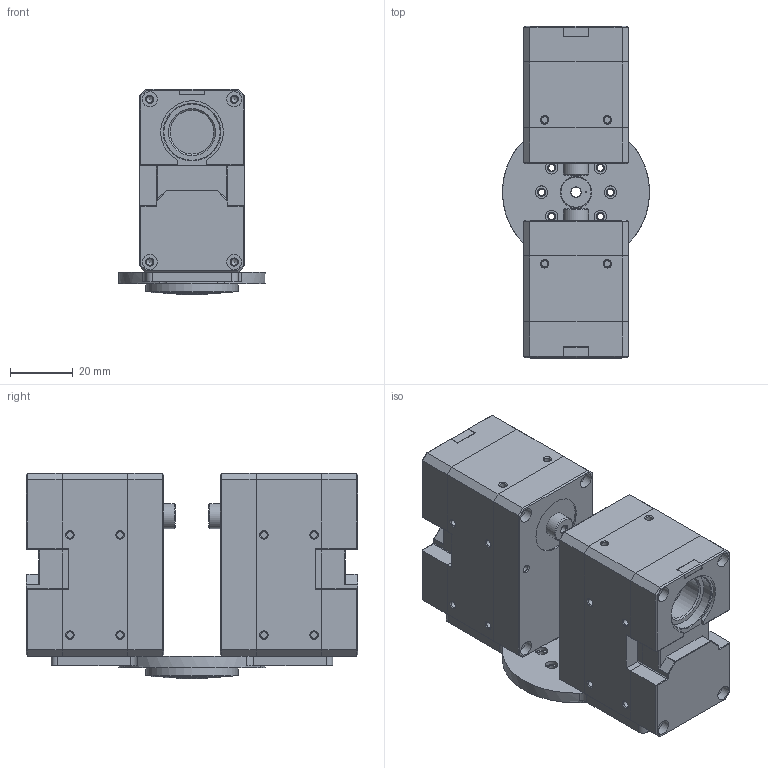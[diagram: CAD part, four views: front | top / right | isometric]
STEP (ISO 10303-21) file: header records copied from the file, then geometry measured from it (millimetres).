
FILE_DESCRIPTION(/* description */ (''),/* implementation_level */ '2;1');
FILE_NAME(/* name */ 'C:\Users\robos\OneDrive\ドキュメント\Inventor\OpenMANIPULATOR\OpenMANIPULATOR-MAX\urdf変換\om-max_link2.stp',/* time_stamp */ '2020-11-05T01:34:35+09:00',/* author */ ('Y.Shibata'),/* organization */ (''),/* preprocessor_version */ 'ST-DEVELOPER v15.2',/* originating_system */ 'Autodesk Inventor 2014',/* authorisation */ '');
FILE_SCHEMA (('AUTOMOTIVE_DESIGN { 1 0 10303 214 3 1 1 }'));
Length unit declared in the file: millimetre
Products named in the file (4): om-max-id12-1_yaw_plate; XM540-W270; HN13_N101; om-max_link2
Assembly tree (4 placements, depth 2):
  om-max_link2
    om-max-id12-1_yaw_plate
    XM540-W270  x2
    HN13_N101
Bounding box: 47 x 106 x 65.75 mm (x, y, z)
Volume: 171518.8 mm3; surface area: 52225.8 mm2
Topology: 10 solids, 10 shells, 826 faces, 2019 edges, 1298 vertices
Faces by surface type: plane 380, cylinder 327, cone 107, bspline 8, torus 4
Full cylindrical faces by diameter (mm): 2 x4, 2.05 x72, 2.5 x2, 2.6 x32, 3.2 x1, 4 x16, 4.8 x16, 8 x2, 9.9 x1, 10 x1, 10.1 x1, 14 x2, 18 x2, 18.2 x2, 26 x1, 26.5 x1, 29.5 x1
Entity records: 17262 total; most frequent: CARTESIAN_POINT 3842, DIRECTION 2781, ORIENTED_EDGE 2520, EDGE_CURVE 1260, AXIS2_PLACEMENT_3D 1083, VERTEX_POINT 912, EDGE_LOOP 870, LINE 615
